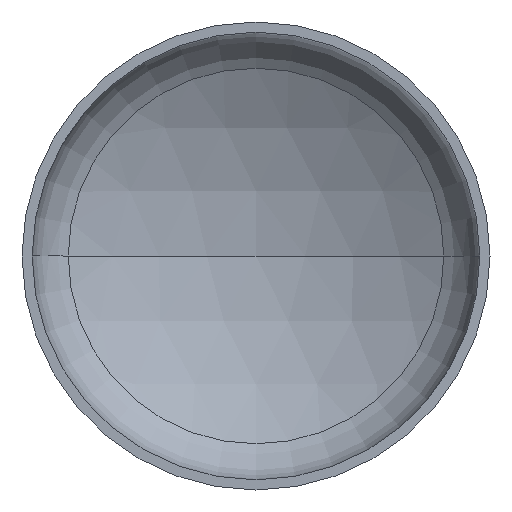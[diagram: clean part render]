
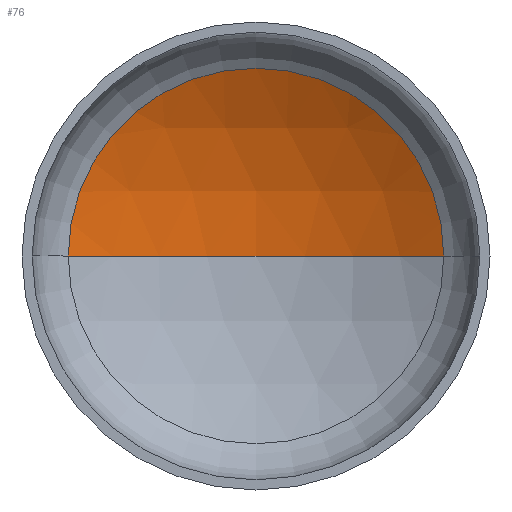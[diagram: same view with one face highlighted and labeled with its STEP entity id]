
A CAD part, front view. The second image highlights one B-rep face of the part: STEP entity #76.
In plain terms, the highlighted spherical face has radius 2720 mm.
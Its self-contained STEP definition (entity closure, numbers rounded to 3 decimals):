
#3 = CARTESIAN_POINT ( 'NONE',  ( 0., 574.179, 0. ) ) ;
#26 = AXIS2_PLACEMENT_3D ( 'NONE', #166, #358, #152 ) ;
#28 = AXIS2_PLACEMENT_3D ( 'NONE', #178, #175, #177 ) ;
#29 = AXIS2_PLACEMENT_3D ( 'NONE', #3, #113, #252 ) ;
#31 = AXIS2_PLACEMENT_3D ( 'NONE', #285, #276, #159 ) ;
#58 = FACE_OUTER_BOUND ( 'NONE', #204, .T. ) ;
#76 = ADVANCED_FACE ( 'NONE', ( #58 ), #364, .F. ) ;
#107 = EDGE_CURVE ( 'NONE', #185, #129, #137, .T. ) ;
#113 = DIRECTION ( 'NONE',  ( 0., -1., 0. ) ) ;
#115 = EDGE_CURVE ( 'NONE', #386, #185, #217, .T. ) ;
#125 = EDGE_CURVE ( 'NONE', #386, #129, #292, .T. ) ;
#129 = VERTEX_POINT ( 'NONE', #383 ) ;
#133 = ORIENTED_EDGE ( 'NONE', *, *, #115, .T. ) ;
#137 = CIRCLE ( 'NONE', #29, 1364.337 ) ;
#147 = ORIENTED_EDGE ( 'NONE', *, *, #125, .F. ) ;
#152 = DIRECTION ( 'NONE',  ( -1., 0., 0. ) ) ;
#159 = DIRECTION ( 'NONE',  ( -1., 0., 0. ) ) ;
#166 = CARTESIAN_POINT ( 'NONE',  ( 0., -1778.901, 0. ) ) ;
#175 = DIRECTION ( 'NONE',  ( 0., 0., 1. ) ) ;
#176 = CARTESIAN_POINT ( 'NONE',  ( 0., 941.099, 0. ) ) ;
#177 = DIRECTION ( 'NONE',  ( 1., 0., 0. ) ) ;
#178 = CARTESIAN_POINT ( 'NONE',  ( 0., -1778.901, 0. ) ) ;
#185 = VERTEX_POINT ( 'NONE', #197 ) ;
#197 = CARTESIAN_POINT ( 'NONE',  ( 1364.337, 574.179, 0. ) ) ;
#204 = EDGE_LOOP ( 'NONE', ( #147, #133, #325 ) ) ;
#217 = CIRCLE ( 'NONE', #26, 2720. ) ;
#252 = DIRECTION ( 'NONE',  ( 1., 0., 0. ) ) ;
#276 = DIRECTION ( 'NONE',  ( 0., 0., -1. ) ) ;
#285 = CARTESIAN_POINT ( 'NONE',  ( 0., -1778.901, 0. ) ) ;
#292 = CIRCLE ( 'NONE', #28, 2720. ) ;
#325 = ORIENTED_EDGE ( 'NONE', *, *, #107, .T. ) ;
#358 = DIRECTION ( 'NONE',  ( 0., 0., -1. ) ) ;
#364 = SPHERICAL_SURFACE ( 'NONE', #31, 2720. ) ;
#383 = CARTESIAN_POINT ( 'NONE',  ( -1364.337, 574.179, 0. ) ) ;
#386 = VERTEX_POINT ( 'NONE', #176 ) ;
